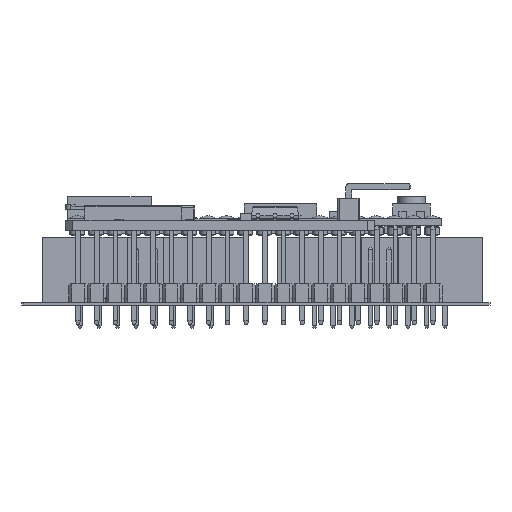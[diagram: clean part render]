
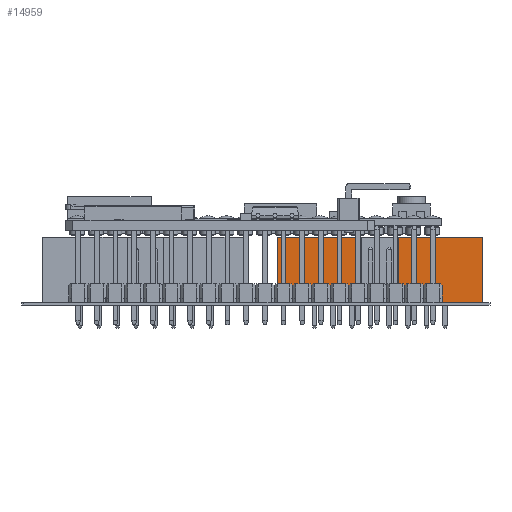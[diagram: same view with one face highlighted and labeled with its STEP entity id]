
A CAD part, left-side view. The second image highlights one B-rep face of the part: STEP entity #14959.
In plain terms, the highlighted planar face has unit normal (-1, 0, 0) as drawn and (0, 1, 0) by its records, which use the part's own axes.
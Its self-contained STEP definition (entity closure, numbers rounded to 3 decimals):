
#13771 = PLANE('',#13772);
#13772 = AXIS2_PLACEMENT_3D('',#13773,#13774,#13775);
#13773 = CARTESIAN_POINT('',(0.,0.,0.));
#13774 = DIRECTION('',(0.,0.,1.));
#13775 = DIRECTION('',(1.,0.,0.));
#13827 = PLANE('',#13828);
#13828 = AXIS2_PLACEMENT_3D('',#13829,#13830,#13831);
#13829 = CARTESIAN_POINT('',(0.,0.,8.9));
#13830 = DIRECTION('',(0.,0.,1.));
#13831 = DIRECTION('',(1.,0.,0.));
#13853 = PLANE('',#13854);
#13854 = AXIS2_PLACEMENT_3D('',#13855,#13856,#13857);
#13855 = CARTESIAN_POINT('',(0.,0.,8.9));
#13856 = DIRECTION('',(-1.,0.,0.));
#13857 = DIRECTION('',(0.,0.,1.));
#14743 = PLANE('',#14744);
#14744 = AXIS2_PLACEMENT_3D('',#14745,#14746,#14747);
#14745 = CARTESIAN_POINT('',(27.9,0.,8.9));
#14746 = DIRECTION('',(-1.,0.,0.));
#14747 = DIRECTION('',(0.,0.,1.));
#14839 = VERTEX_POINT('',#14840);
#14840 = CARTESIAN_POINT('',(27.9,8.6,0.));
#14861 = EDGE_CURVE('',#14862,#14839,#14864,.T.);
#14862 = VERTEX_POINT('',#14863);
#14863 = CARTESIAN_POINT('',(27.9,8.6,8.9));
#14864 = SURFACE_CURVE('',#14865,(#14869,#14876),.PCURVE_S1.);
#14865 = LINE('',#14866,#14867);
#14866 = CARTESIAN_POINT('',(27.9,8.6,8.9));
#14867 = VECTOR('',#14868,1.);
#14868 = DIRECTION('',(0.,0.,-1.));
#14869 = PCURVE('',#14743,#14870);
#14870 = DEFINITIONAL_REPRESENTATION('',(#14871),#14875);
#14871 = LINE('',#14872,#14873);
#14872 = CARTESIAN_POINT('',(0.,8.6));
#14873 = VECTOR('',#14874,1.);
#14874 = DIRECTION('',(-1.,0.));
#14875 = ( GEOMETRIC_REPRESENTATION_CONTEXT(2) 
PARAMETRIC_REPRESENTATION_CONTEXT() REPRESENTATION_CONTEXT('2D SPACE',''
  ) );
#14876 = PCURVE('',#14877,#14882);
#14877 = PLANE('',#14878);
#14878 = AXIS2_PLACEMENT_3D('',#14879,#14880,#14881);
#14879 = CARTESIAN_POINT('',(0.,8.6,8.9));
#14880 = DIRECTION('',(0.,1.,0.));
#14881 = DIRECTION('',(0.,0.,1.));
#14882 = DEFINITIONAL_REPRESENTATION('',(#14883),#14887);
#14883 = LINE('',#14884,#14885);
#14884 = CARTESIAN_POINT('',(0.,27.9));
#14885 = VECTOR('',#14886,1.);
#14886 = DIRECTION('',(-1.,0.));
#14887 = ( GEOMETRIC_REPRESENTATION_CONTEXT(2) 
PARAMETRIC_REPRESENTATION_CONTEXT() REPRESENTATION_CONTEXT('2D SPACE',''
  ) );
#14959 = ADVANCED_FACE('',(#14960),#14877,.T.);
#14960 = FACE_BOUND('',#14961,.T.);
#14961 = EDGE_LOOP('',(#14962,#14992,#15020,#15048,#15069,#15070,#15093,
    #15116));
#14962 = ORIENTED_EDGE('',*,*,#14963,.F.);
#14963 = EDGE_CURVE('',#14964,#14966,#14968,.T.);
#14964 = VERTEX_POINT('',#14965);
#14965 = CARTESIAN_POINT('',(11.45,8.6,2.5));
#14966 = VERTEX_POINT('',#14967);
#14967 = CARTESIAN_POINT('',(11.45,8.6,8.9));
#14968 = SURFACE_CURVE('',#14969,(#14973,#14980),.PCURVE_S1.);
#14969 = LINE('',#14970,#14971);
#14970 = CARTESIAN_POINT('',(11.45,8.6,2.5));
#14971 = VECTOR('',#14972,1.);
#14972 = DIRECTION('',(0.,0.,1.));
#14973 = PCURVE('',#14877,#14974);
#14974 = DEFINITIONAL_REPRESENTATION('',(#14975),#14979);
#14975 = LINE('',#14976,#14977);
#14976 = CARTESIAN_POINT('',(-6.4,11.45));
#14977 = VECTOR('',#14978,1.);
#14978 = DIRECTION('',(1.,0.));
#14979 = ( GEOMETRIC_REPRESENTATION_CONTEXT(2) 
PARAMETRIC_REPRESENTATION_CONTEXT() REPRESENTATION_CONTEXT('2D SPACE',''
  ) );
#14980 = PCURVE('',#14981,#14986);
#14981 = PLANE('',#14982);
#14982 = AXIS2_PLACEMENT_3D('',#14983,#14984,#14985);
#14983 = CARTESIAN_POINT('',(11.45,7.5,2.5));
#14984 = DIRECTION('',(-1.,0.,0.));
#14985 = DIRECTION('',(0.,0.,1.));
#14986 = DEFINITIONAL_REPRESENTATION('',(#14987),#14991);
#14987 = LINE('',#14988,#14989);
#14988 = CARTESIAN_POINT('',(0.,1.1));
#14989 = VECTOR('',#14990,1.);
#14990 = DIRECTION('',(1.,0.));
#14991 = ( GEOMETRIC_REPRESENTATION_CONTEXT(2) 
PARAMETRIC_REPRESENTATION_CONTEXT() REPRESENTATION_CONTEXT('2D SPACE',''
  ) );
#14992 = ORIENTED_EDGE('',*,*,#14993,.F.);
#14993 = EDGE_CURVE('',#14994,#14964,#14996,.T.);
#14994 = VERTEX_POINT('',#14995);
#14995 = CARTESIAN_POINT('',(16.45,8.6,2.5));
#14996 = SURFACE_CURVE('',#14997,(#15001,#15008),.PCURVE_S1.);
#14997 = LINE('',#14998,#14999);
#14998 = CARTESIAN_POINT('',(11.45,8.6,2.5));
#14999 = VECTOR('',#15000,1.);
#15000 = DIRECTION('',(-1.,0.,0.));
#15001 = PCURVE('',#14877,#15002);
#15002 = DEFINITIONAL_REPRESENTATION('',(#15003),#15007);
#15003 = LINE('',#15004,#15005);
#15004 = CARTESIAN_POINT('',(-6.4,11.45));
#15005 = VECTOR('',#15006,1.);
#15006 = DIRECTION('',(0.,-1.));
#15007 = ( GEOMETRIC_REPRESENTATION_CONTEXT(2) 
PARAMETRIC_REPRESENTATION_CONTEXT() REPRESENTATION_CONTEXT('2D SPACE',''
  ) );
#15008 = PCURVE('',#15009,#15014);
#15009 = PLANE('',#15010);
#15010 = AXIS2_PLACEMENT_3D('',#15011,#15012,#15013);
#15011 = CARTESIAN_POINT('',(1.1,7.5,2.5));
#15012 = DIRECTION('',(0.,0.,1.));
#15013 = DIRECTION('',(1.,0.,0.));
#15014 = DEFINITIONAL_REPRESENTATION('',(#15015),#15019);
#15015 = LINE('',#15016,#15017);
#15016 = CARTESIAN_POINT('',(10.35,1.1));
#15017 = VECTOR('',#15018,1.);
#15018 = DIRECTION('',(-1.,0.));
#15019 = ( GEOMETRIC_REPRESENTATION_CONTEXT(2) 
PARAMETRIC_REPRESENTATION_CONTEXT() REPRESENTATION_CONTEXT('2D SPACE',''
  ) );
#15020 = ORIENTED_EDGE('',*,*,#15021,.T.);
#15021 = EDGE_CURVE('',#14994,#15022,#15024,.T.);
#15022 = VERTEX_POINT('',#15023);
#15023 = CARTESIAN_POINT('',(16.45,8.6,8.9));
#15024 = SURFACE_CURVE('',#15025,(#15029,#15036),.PCURVE_S1.);
#15025 = LINE('',#15026,#15027);
#15026 = CARTESIAN_POINT('',(16.45,8.6,2.5));
#15027 = VECTOR('',#15028,1.);
#15028 = DIRECTION('',(0.,0.,1.));
#15029 = PCURVE('',#14877,#15030);
#15030 = DEFINITIONAL_REPRESENTATION('',(#15031),#15035);
#15031 = LINE('',#15032,#15033);
#15032 = CARTESIAN_POINT('',(-6.4,16.45));
#15033 = VECTOR('',#15034,1.);
#15034 = DIRECTION('',(1.,0.));
#15035 = ( GEOMETRIC_REPRESENTATION_CONTEXT(2) 
PARAMETRIC_REPRESENTATION_CONTEXT() REPRESENTATION_CONTEXT('2D SPACE',''
  ) );
#15036 = PCURVE('',#15037,#15042);
#15037 = PLANE('',#15038);
#15038 = AXIS2_PLACEMENT_3D('',#15039,#15040,#15041);
#15039 = CARTESIAN_POINT('',(16.45,8.6,2.5));
#15040 = DIRECTION('',(1.,0.,0.));
#15041 = DIRECTION('',(0.,1.,0.));
#15042 = DEFINITIONAL_REPRESENTATION('',(#15043),#15047);
#15043 = LINE('',#15044,#15045);
#15044 = CARTESIAN_POINT('',(0.,0.));
#15045 = VECTOR('',#15046,1.);
#15046 = DIRECTION('',(0.,1.));
#15047 = ( GEOMETRIC_REPRESENTATION_CONTEXT(2) 
PARAMETRIC_REPRESENTATION_CONTEXT() REPRESENTATION_CONTEXT('2D SPACE',''
  ) );
#15048 = ORIENTED_EDGE('',*,*,#15049,.T.);
#15049 = EDGE_CURVE('',#15022,#14862,#15050,.T.);
#15050 = SURFACE_CURVE('',#15051,(#15055,#15062),.PCURVE_S1.);
#15051 = LINE('',#15052,#15053);
#15052 = CARTESIAN_POINT('',(0.,8.6,8.9));
#15053 = VECTOR('',#15054,1.);
#15054 = DIRECTION('',(1.,0.,0.));
#15055 = PCURVE('',#14877,#15056);
#15056 = DEFINITIONAL_REPRESENTATION('',(#15057),#15061);
#15057 = LINE('',#15058,#15059);
#15058 = CARTESIAN_POINT('',(0.,0.));
#15059 = VECTOR('',#15060,1.);
#15060 = DIRECTION('',(0.,1.));
#15061 = ( GEOMETRIC_REPRESENTATION_CONTEXT(2) 
PARAMETRIC_REPRESENTATION_CONTEXT() REPRESENTATION_CONTEXT('2D SPACE',''
  ) );
#15062 = PCURVE('',#13827,#15063);
#15063 = DEFINITIONAL_REPRESENTATION('',(#15064),#15068);
#15064 = LINE('',#15065,#15066);
#15065 = CARTESIAN_POINT('',(0.,8.6));
#15066 = VECTOR('',#15067,1.);
#15067 = DIRECTION('',(1.,0.));
#15068 = ( GEOMETRIC_REPRESENTATION_CONTEXT(2) 
PARAMETRIC_REPRESENTATION_CONTEXT() REPRESENTATION_CONTEXT('2D SPACE',''
  ) );
#15069 = ORIENTED_EDGE('',*,*,#14861,.T.);
#15070 = ORIENTED_EDGE('',*,*,#15071,.F.);
#15071 = EDGE_CURVE('',#15072,#14839,#15074,.T.);
#15072 = VERTEX_POINT('',#15073);
#15073 = CARTESIAN_POINT('',(0.,8.6,0.));
#15074 = SURFACE_CURVE('',#15075,(#15079,#15086),.PCURVE_S1.);
#15075 = LINE('',#15076,#15077);
#15076 = CARTESIAN_POINT('',(0.,8.6,0.));
#15077 = VECTOR('',#15078,1.);
#15078 = DIRECTION('',(1.,0.,0.));
#15079 = PCURVE('',#14877,#15080);
#15080 = DEFINITIONAL_REPRESENTATION('',(#15081),#15085);
#15081 = LINE('',#15082,#15083);
#15082 = CARTESIAN_POINT('',(-8.9,0.));
#15083 = VECTOR('',#15084,1.);
#15084 = DIRECTION('',(0.,1.));
#15085 = ( GEOMETRIC_REPRESENTATION_CONTEXT(2) 
PARAMETRIC_REPRESENTATION_CONTEXT() REPRESENTATION_CONTEXT('2D SPACE',''
  ) );
#15086 = PCURVE('',#13771,#15087);
#15087 = DEFINITIONAL_REPRESENTATION('',(#15088),#15092);
#15088 = LINE('',#15089,#15090);
#15089 = CARTESIAN_POINT('',(0.,8.6));
#15090 = VECTOR('',#15091,1.);
#15091 = DIRECTION('',(1.,0.));
#15092 = ( GEOMETRIC_REPRESENTATION_CONTEXT(2) 
PARAMETRIC_REPRESENTATION_CONTEXT() REPRESENTATION_CONTEXT('2D SPACE',''
  ) );
#15093 = ORIENTED_EDGE('',*,*,#15094,.F.);
#15094 = EDGE_CURVE('',#15095,#15072,#15097,.T.);
#15095 = VERTEX_POINT('',#15096);
#15096 = CARTESIAN_POINT('',(0.,8.6,8.9));
#15097 = SURFACE_CURVE('',#15098,(#15102,#15109),.PCURVE_S1.);
#15098 = LINE('',#15099,#15100);
#15099 = CARTESIAN_POINT('',(0.,8.6,8.9));
#15100 = VECTOR('',#15101,1.);
#15101 = DIRECTION('',(0.,0.,-1.));
#15102 = PCURVE('',#14877,#15103);
#15103 = DEFINITIONAL_REPRESENTATION('',(#15104),#15108);
#15104 = LINE('',#15105,#15106);
#15105 = CARTESIAN_POINT('',(0.,0.));
#15106 = VECTOR('',#15107,1.);
#15107 = DIRECTION('',(-1.,0.));
#15108 = ( GEOMETRIC_REPRESENTATION_CONTEXT(2) 
PARAMETRIC_REPRESENTATION_CONTEXT() REPRESENTATION_CONTEXT('2D SPACE',''
  ) );
#15109 = PCURVE('',#13853,#15110);
#15110 = DEFINITIONAL_REPRESENTATION('',(#15111),#15115);
#15111 = LINE('',#15112,#15113);
#15112 = CARTESIAN_POINT('',(0.,8.6));
#15113 = VECTOR('',#15114,1.);
#15114 = DIRECTION('',(-1.,0.));
#15115 = ( GEOMETRIC_REPRESENTATION_CONTEXT(2) 
PARAMETRIC_REPRESENTATION_CONTEXT() REPRESENTATION_CONTEXT('2D SPACE',''
  ) );
#15116 = ORIENTED_EDGE('',*,*,#15117,.T.);
#15117 = EDGE_CURVE('',#15095,#14966,#15118,.T.);
#15118 = SURFACE_CURVE('',#15119,(#15123,#15130),.PCURVE_S1.);
#15119 = LINE('',#15120,#15121);
#15120 = CARTESIAN_POINT('',(0.,8.6,8.9));
#15121 = VECTOR('',#15122,1.);
#15122 = DIRECTION('',(1.,0.,0.));
#15123 = PCURVE('',#14877,#15124);
#15124 = DEFINITIONAL_REPRESENTATION('',(#15125),#15129);
#15125 = LINE('',#15126,#15127);
#15126 = CARTESIAN_POINT('',(0.,0.));
#15127 = VECTOR('',#15128,1.);
#15128 = DIRECTION('',(0.,1.));
#15129 = ( GEOMETRIC_REPRESENTATION_CONTEXT(2) 
PARAMETRIC_REPRESENTATION_CONTEXT() REPRESENTATION_CONTEXT('2D SPACE',''
  ) );
#15130 = PCURVE('',#13827,#15131);
#15131 = DEFINITIONAL_REPRESENTATION('',(#15132),#15136);
#15132 = LINE('',#15133,#15134);
#15133 = CARTESIAN_POINT('',(0.,8.6));
#15134 = VECTOR('',#15135,1.);
#15135 = DIRECTION('',(1.,0.));
#15136 = ( GEOMETRIC_REPRESENTATION_CONTEXT(2) 
PARAMETRIC_REPRESENTATION_CONTEXT() REPRESENTATION_CONTEXT('2D SPACE',''
  ) );
